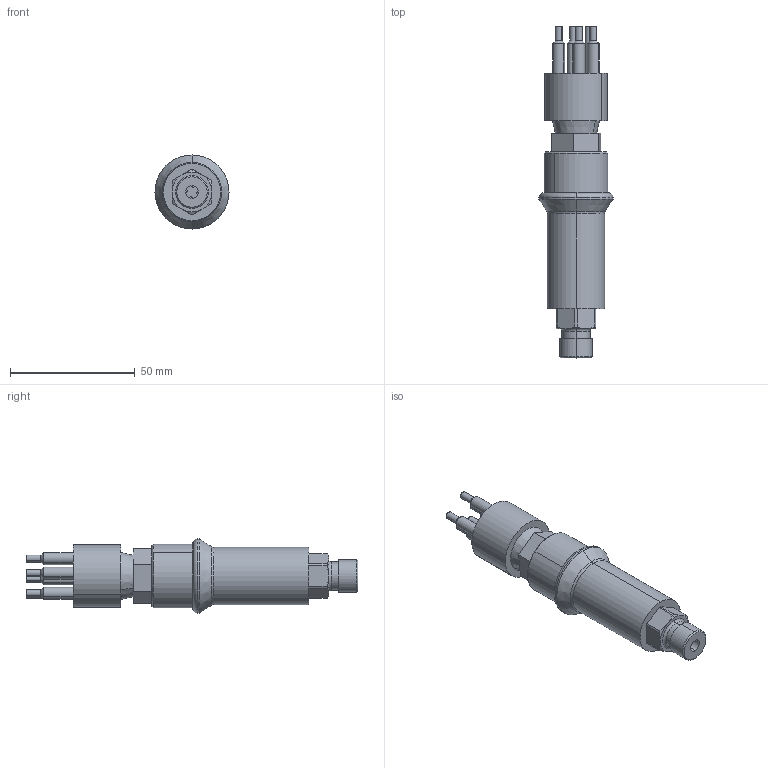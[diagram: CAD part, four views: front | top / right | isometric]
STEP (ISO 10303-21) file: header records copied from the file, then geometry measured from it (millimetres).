
FILE_DESCRIPTION (( 'STEP AP214' ), '1' );
FILE_NAME ('D-0425-DOD iss 1.STEP', '2024-07-01T10:38:54', ( '' ), ( '' ), 'SwSTEP 2.0', 'SolidWorks 2021', '' );
FILE_SCHEMA (( 'AUTOMOTIVE_DESIGN' ));
Length unit declared in the file: millimetre
Products named in the file (4): bh4m.stp; D-0096-M iss 2 - for Assembly Drawing; New Cover for Assembly Drawing; D-0425-DOD iss 1
Assembly tree (3 placements, depth 2):
  D-0425-DOD iss 1
    D-0096-M iss 2 - for Assembly Drawing
    New Cover for Assembly Drawing
    bh4m.stp
Bounding box: 29.71 x 133.2 x 29.71 mm (x, y, z)
Volume: 34682.3 mm3; surface area: 18803.4 mm2
Topology: 3 solids, 3 shells, 299 faces, 704 edges, 445 vertices
Faces by surface type: cylinder 104, plane 91, cone 47, bspline 33, torus 24
Entity records: 13706 total; most frequent: CARTESIAN_POINT 4930, ORIENTED_EDGE 1408, DIRECTION 1357, EDGE_CURVE 704, AXIS2_PLACEMENT_3D 520, VERTEX_POINT 445, EDGE_LOOP 337, VECTOR 317
